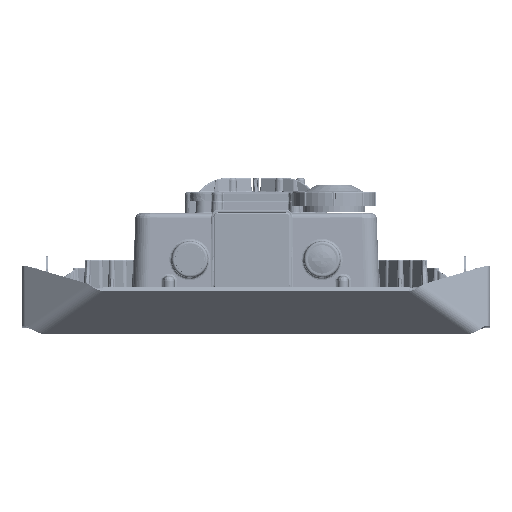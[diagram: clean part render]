
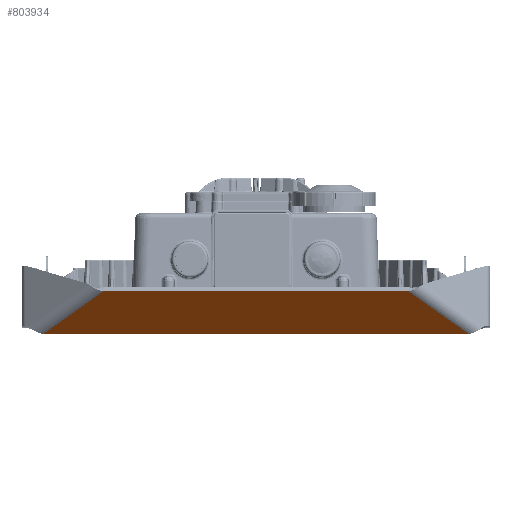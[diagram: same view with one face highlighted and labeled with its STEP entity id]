
A CAD part, top view. The second image highlights one B-rep face of the part: STEP entity #803934.
In plain terms, the highlighted planar face has unit normal (0, -0.707, 0.707).
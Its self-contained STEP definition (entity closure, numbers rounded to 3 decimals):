
#803359=DIRECTION('',(-0.707,0.5,0.5));
#803360=VECTOR('',#803359,3.536);
#803361=CARTESIAN_POINT('',(8.85,-2.242,24.348));
#803362=LINE('',#803361,#803360);
#803363=DIRECTION('',(-1.,0.,0.));
#803364=VECTOR('',#803363,8.85);
#803365=CARTESIAN_POINT('',(8.85,-2.242,24.348));
#803366=LINE('',#803365,#803364);
#803367=DIRECTION('',(-1.,0.,0.));
#803368=VECTOR('',#803367,8.85);
#803369=CARTESIAN_POINT('',(0.,-2.242,24.348));
#803370=LINE('',#803369,#803368);
#803371=DIRECTION('',(0.707,0.5,0.5));
#803372=VECTOR('',#803371,3.536);
#803373=CARTESIAN_POINT('',(-8.85,-2.242,24.348));
#803374=LINE('',#803373,#803372);
#803375=DIRECTION('',(1.,0.,0.));
#803376=VECTOR('',#803375,6.35);
#803377=CARTESIAN_POINT('',(-6.35,-0.475,26.116));
#803378=LINE('',#803377,#803376);
#803379=DIRECTION('',(1.,0.,0.));
#803380=VECTOR('',#803379,6.35);
#803381=CARTESIAN_POINT('',(0.,-0.475,26.116));
#803382=LINE('',#803381,#803380);
#803831=CARTESIAN_POINT('',(0.,-2.242,24.348));
#803833=VERTEX_POINT('',#803831);
#803839=CARTESIAN_POINT('',(0.,-0.475,26.116));
#803841=VERTEX_POINT('',#803839);
#803869=CARTESIAN_POINT('',(-8.85,-2.242,24.348));
#803870=VERTEX_POINT('',#803869);
#803871=CARTESIAN_POINT('',(-6.35,-0.475,26.116));
#803872=VERTEX_POINT('',#803871);
#803899=CARTESIAN_POINT('',(6.35,-0.475,26.116));
#803900=VERTEX_POINT('',#803899);
#803901=CARTESIAN_POINT('',(8.85,-2.242,24.348));
#803902=VERTEX_POINT('',#803901);
#803915=CARTESIAN_POINT('',(0.,-1.358,25.232));
#803916=DIRECTION('',(0.,0.707,-0.707));
#803917=DIRECTION('',(-1.,0.,0.));
#803918=AXIS2_PLACEMENT_3D('',#803915,#803916,#803917);
#803919=PLANE('',#803918);
#803921=ORIENTED_EDGE('',*,*,#803920,.F.);
#803923=ORIENTED_EDGE('',*,*,#803922,.T.);
#803925=ORIENTED_EDGE('',*,*,#803924,.T.);
#803927=ORIENTED_EDGE('',*,*,#803926,.T.);
#803929=ORIENTED_EDGE('',*,*,#803928,.T.);
#803931=ORIENTED_EDGE('',*,*,#803930,.T.);
#803932=EDGE_LOOP('',(#803921,#803923,#803925,#803927,#803929,#803931));
#803933=FACE_OUTER_BOUND('',#803932,.F.);
#803934=ADVANCED_FACE('',(#803933),#803919,.F.);
#803920=EDGE_CURVE('',#803902,#803900,#803362,.T.);
#803922=EDGE_CURVE('',#803902,#803833,#803366,.T.);
#803924=EDGE_CURVE('',#803833,#803870,#803370,.T.);
#803926=EDGE_CURVE('',#803870,#803872,#803374,.T.);
#803928=EDGE_CURVE('',#803872,#803841,#803378,.T.);
#803930=EDGE_CURVE('',#803841,#803900,#803382,.T.);
